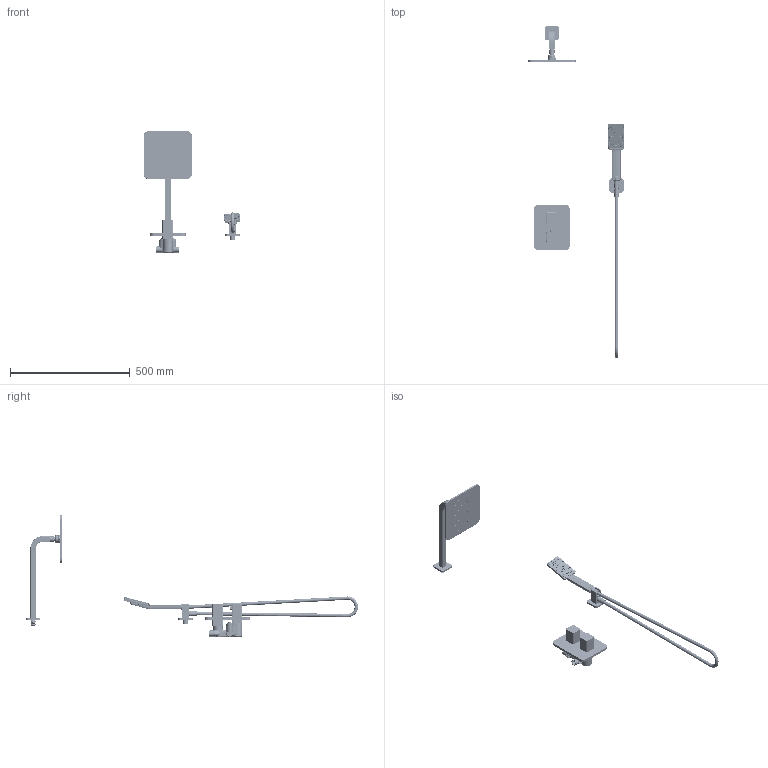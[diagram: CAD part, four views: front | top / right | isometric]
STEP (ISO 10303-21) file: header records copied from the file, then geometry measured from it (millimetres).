
FILE_DESCRIPTION(/* description */ (''),/* implementation_level */ '2;1');
FILE_NAME(/* name */ 'c:\worker\convert-fusion-r07\tmp\job-1\3\output\files\4dee3637-cdc1-4c29-8a5c-11c04db27142\da76cc79-d1a9-4474-99d7-35d9b088f8a5.stp',/* time_stamp */ '2020-09-16T12:55:24+00:00',/* author */ (''),/* organization */ (''),/* preprocessor_version */ 'ST-DEVELOPER v18.1',/* originating_system */ 'Autodesk Translation Framework v9.3.0.1241',/* authorisation */ '');
FILE_SCHEMA (('AUTOMOTIVE_DESIGN { 1 0 10303 214 3 1 1 }'));
Products named in the file (6): !SYS PM11 BL; !8815 v4; Wąż ok v1; !JimJim-R v1; !PM7436 v1; !WG220OBL v2
Assembly tree (5 placements, depth 2):
  !SYS PM11 BL
    !8815 v4
    Wąż ok v1
    !JimJim-R v1
    !PM7436 v1
    !WG220OBL v2
Bounding box: 402.17 x 1385.44 x 508.25 mm (x, y, z)
Volume: 942132.7 mm3; surface area: 782581.5 mm2
Topology: 112 solids, 112 shells, 9006 faces, 23076 edges, 14581 vertices
Faces by surface type: plane 3578, cylinder 2679, cone 1208, torus 836, bspline 658, sphere 47
Full cylindrical faces by diameter (mm): 0.7 x15, 1.7 x8, 2 x4, 2.4 x4, 2.5 x26, 2.6 x8, 3 x23, 3.2 x2, 3.5 x10, 4 x3, 4.2 x106, 4.5 x1, 4.8 x2, 5 x82, 5.4 x2, 5.5 x19, 5.7 x2, 6 x18, 6.2 x1, 7.5 x3, 8 x3, 8.5 x1, 9 x3, 9.2 x1, 9.5 x5, 10 x2, 10.3 x1, 11 x1, 11.7 x1, 11.8 x1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
Entity records: 367193 total; most frequent: CARTESIAN_POINT 147069, DIRECTION 46433, ORIENTED_EDGE 46054, EDGE_CURVE 23027, AXIS2_PLACEMENT_3D 17340, VERTEX_POINT 14581, LINE 11753, VECTOR 11753
